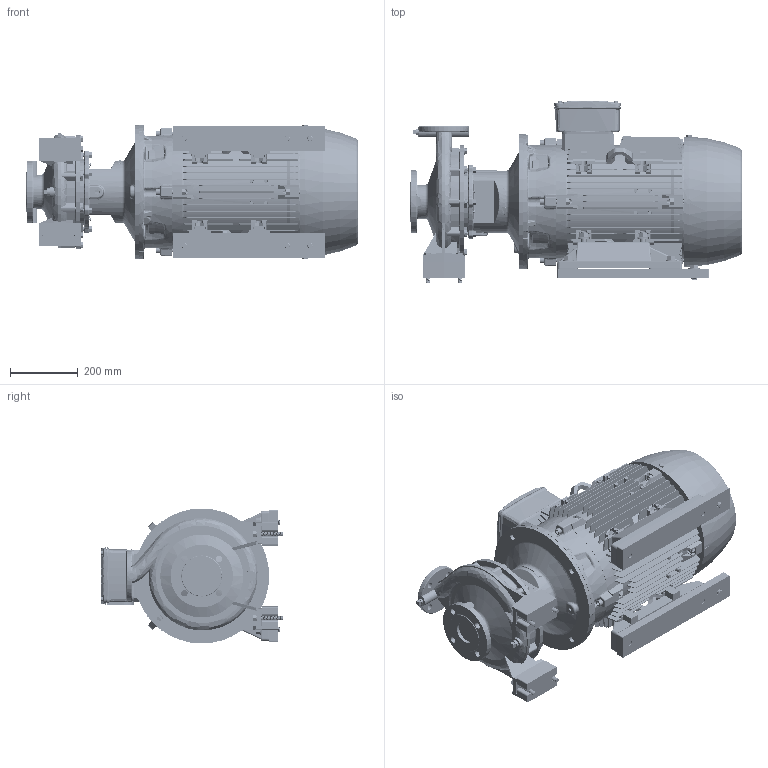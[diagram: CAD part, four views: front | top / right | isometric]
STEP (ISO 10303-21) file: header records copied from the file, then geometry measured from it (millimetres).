
FILE_DESCRIPTION (( 'STEP AP214' ), '1' );
FILE_NAME ('GSD2 40-250_30.0_(200ML)_W21.STEP', '2026-07-02T05:50:42', ( '' ), ( '' ), 'SwSTEP 2.0', 'SolidWorks 2024', '' );
FILE_SCHEMA (( 'AUTOMOTIVE_DESIGN' ));
Length unit declared in the file: millimetre
Products named in the file (14): CGS11-5311_2_3_4_5_CGS11-5312; Parametric Flat Washer_M12; Parametric bolt and washer_SFT-A355B; Parametric Nut_M12; Parametric bolt_SFT-A359B; 200M_L ALIE3_W21T_B35; Parametric bolt_SFT-A353B; CGS11-5311_2_3_4_5_CGS11-5311; GSD2  40-250_30.0_(200ML)_W21; Parametric Flat Washer_M16; Parametric Stud Bolt_SFSK-AB299; 40-250-200M_L; 80x25 - CGSDA-5271; Parametric bolt and washer_SFT-A359B
Assembly tree (30 placements, depth 3):
  GSD2  40-250_30.0_(200ML)_W21
    40-250-200M_L
    CGS11-5311_2_3_4_5_CGS11-5311  x2
    CGS11-5311_2_3_4_5_CGS11-5312  x2
    80x25 - CGSDA-5271  x2
    Parametric Stud Bolt_SFSK-AB299  x4
    Parametric Flat Washer_M12  x4
    Parametric Nut_M12  x4
    Parametric bolt and washer_SFT-A355B  x2
      Parametric bolt_SFT-A353B
      Parametric Flat Washer_M16
    200M_L ALIE3_W21T_B35
    Parametric bolt and washer_SFT-A359B  x4
      Parametric bolt_SFT-A359B
      Parametric Flat Washer_M16
Bounding box: 983.8 x 541.4 x 400 mm (x, y, z)
Volume: 80519507.3 mm3; surface area: 4359578.2 mm2
Topology: 72 solids, 82 shells, 8076 faces, 21009 edges, 13527 vertices
Faces by surface type: plane 4428, cylinder 1771, bspline 983, cone 662, torus 228, sphere 4
Entity records: 296654 total; most frequent: CARTESIAN_POINT 128458, ORIENTED_EDGE 37498, DIRECTION 30494, EDGE_CURVE 18749, VERTEX_POINT 12129, VECTOR 11300, LINE 11300, AXIS2_PLACEMENT_3D 9597
